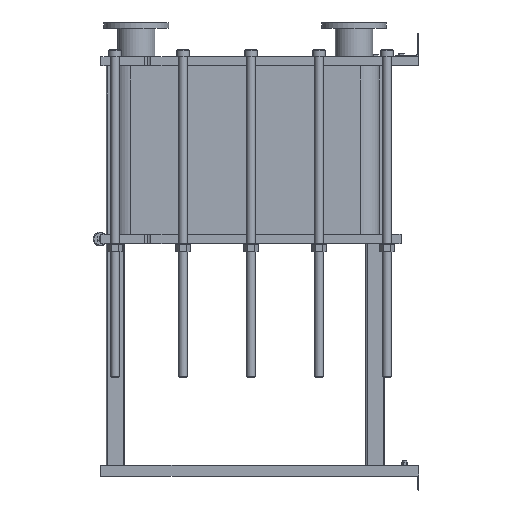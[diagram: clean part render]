
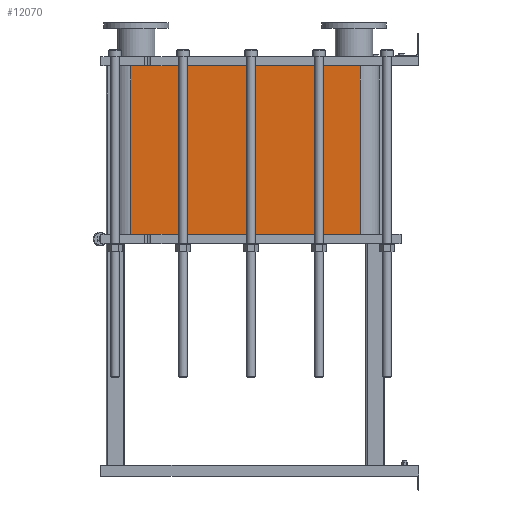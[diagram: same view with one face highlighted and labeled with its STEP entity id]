
A CAD part, left-side view. The second image highlights one B-rep face of the part: STEP entity #12070.
In plain terms, the highlighted planar face has unit normal (-1, 0, 0).
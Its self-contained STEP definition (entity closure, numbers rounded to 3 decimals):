
#1064=LINE('',#21140,#2164);
#1065=LINE('',#21144,#2165);
#1066=LINE('',#21146,#2166);
#1067=LINE('',#21147,#2167);
#2164=VECTOR('',#15790,10.);
#2165=VECTOR('',#15795,10.);
#2166=VECTOR('',#15796,10.);
#2167=VECTOR('',#15797,10.);
#3304=FACE_OUTER_BOUND('',#4091,.T.);
#4091=EDGE_LOOP('',(#9793,#9794,#9795,#9796));
#5677=VERTEX_POINT('',#21137);
#5678=VERTEX_POINT('',#21139);
#5679=VERTEX_POINT('',#21143);
#5680=VERTEX_POINT('',#21145);
#7118=EDGE_CURVE('',#5678,#5677,#1064,.T.);
#7120=EDGE_CURVE('',#5677,#5679,#1065,.T.);
#7121=EDGE_CURVE('',#5680,#5679,#1066,.T.);
#7122=EDGE_CURVE('',#5680,#5678,#1067,.T.);
#9793=ORIENTED_EDGE('',*,*,#7120,.T.);
#9794=ORIENTED_EDGE('',*,*,#7121,.F.);
#9795=ORIENTED_EDGE('',*,*,#7122,.T.);
#9796=ORIENTED_EDGE('',*,*,#7118,.T.);
#11441=PLANE('',#13191);
#12070=ADVANCED_FACE('',(#3304),#11441,.T.);
#13191=AXIS2_PLACEMENT_3D('',#21142,#15793,#15794);
#15790=DIRECTION('',(0.,0.,-1.));
#15793=DIRECTION('center_axis',(-1.,0.,0.));
#15794=DIRECTION('ref_axis',(0.,1.,0.));
#15795=DIRECTION('',(0.,-1.,0.));
#15796=DIRECTION('',(0.,0.,-1.));
#15797=DIRECTION('',(0.,1.,0.));
#21137=CARTESIAN_POINT('',(-248.152,1243.818,-727.95));
#21139=CARTESIAN_POINT('',(-248.152,1243.818,0.));
#21140=CARTESIAN_POINT('',(-248.152,1243.818,0.));
#21142=CARTESIAN_POINT('Origin',(-248.152,251.818,0.));
#21143=CARTESIAN_POINT('',(-248.152,251.818,-727.95));
#21144=CARTESIAN_POINT('',(-248.152,499.818,-727.95));
#21145=CARTESIAN_POINT('',(-248.152,251.818,0.));
#21146=CARTESIAN_POINT('',(-248.152,251.818,0.));
#21147=CARTESIAN_POINT('',(-248.152,251.818,0.));
